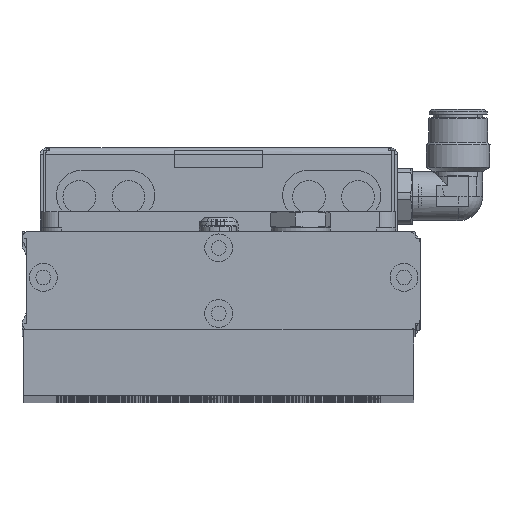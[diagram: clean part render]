
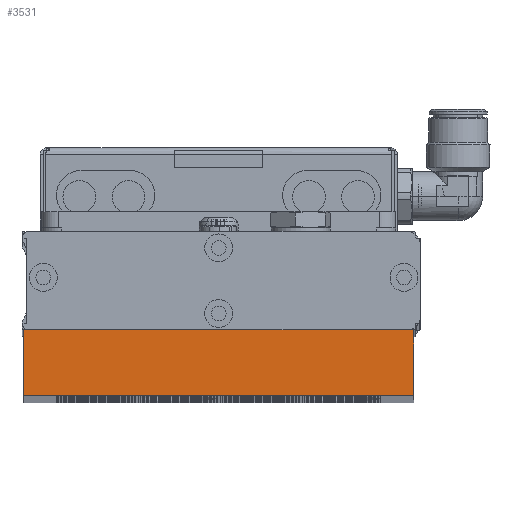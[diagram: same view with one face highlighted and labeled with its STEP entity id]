
A CAD part, top view. The second image highlights one B-rep face of the part: STEP entity #3531.
In plain terms, the highlighted planar face has unit normal (0, 0, 1).
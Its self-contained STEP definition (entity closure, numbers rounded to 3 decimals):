
#1750 = CARTESIAN_POINT ( 'NONE',  ( 36.4, -51.3, 622. ) ) ;
#2282 = PLANE ( 'NONE',  #19411 ) ;
#3531 = ADVANCED_FACE ( 'NONE', ( #35020 ), #2282, .F. ) ;
#3819 = VECTOR ( 'NONE', #12358, 1000. ) ;
#5548 = ORIENTED_EDGE ( 'NONE', *, *, #30440, .F. ) ;
#5615 = CARTESIAN_POINT ( 'NONE',  ( 36.4, -71.3, 622. ) ) ;
#6070 = ORIENTED_EDGE ( 'NONE', *, *, #36262, .F. ) ;
#6252 = VERTEX_POINT ( 'NONE', #32727 ) ;
#9413 = CARTESIAN_POINT ( 'NONE',  ( 36.4, -51.3, 622. ) ) ;
#10414 = CARTESIAN_POINT ( 'NONE',  ( -82.6, -51.3, 622. ) ) ;
#10549 = DIRECTION ( 'NONE',  ( 0., -1., 0. ) ) ;
#11191 = EDGE_CURVE ( 'NONE', #6252, #22015, #22428, .T. ) ;
#12358 = DIRECTION ( 'NONE',  ( 1., 0., 0. ) ) ;
#13959 = VERTEX_POINT ( 'NONE', #1750 ) ;
#18517 = VECTOR ( 'NONE', #35968, 1000. ) ;
#19411 = AXIS2_PLACEMENT_3D ( 'NONE', #29874, #39640, #26203 ) ;
#20044 = VERTEX_POINT ( 'NONE', #5615 ) ;
#20371 = VECTOR ( 'NONE', #10549, 1000. ) ;
#22015 = VERTEX_POINT ( 'NONE', #22960 ) ;
#22428 = LINE ( 'NONE', #10414, #20371 ) ;
#22960 = CARTESIAN_POINT ( 'NONE',  ( -82.6, -71.3, 622. ) ) ;
#23235 = CARTESIAN_POINT ( 'NONE',  ( -82.6, -51.3, 622. ) ) ;
#25027 = CARTESIAN_POINT ( 'NONE',  ( -82.6, -71.3, 622. ) ) ;
#25310 = EDGE_CURVE ( 'NONE', #22015, #20044, #32852, .T. ) ;
#25490 = DIRECTION ( 'NONE',  ( 0., -1., 0. ) ) ;
#26203 = DIRECTION ( 'NONE',  ( 0., 1., 0. ) ) ;
#29874 = CARTESIAN_POINT ( 'NONE',  ( -82.6, -51.3, 622. ) ) ;
#30263 = ORIENTED_EDGE ( 'NONE', *, *, #25310, .T. ) ;
#30440 = EDGE_CURVE ( 'NONE', #6252, #13959, #38866, .T. ) ;
#31694 = ORIENTED_EDGE ( 'NONE', *, *, #11191, .T. ) ;
#32727 = CARTESIAN_POINT ( 'NONE',  ( -82.6, -51.3, 622. ) ) ;
#32852 = LINE ( 'NONE', #25027, #3819 ) ;
#33672 = EDGE_LOOP ( 'NONE', ( #30263, #6070, #5548, #31694 ) ) ;
#35020 = FACE_OUTER_BOUND ( 'NONE', #33672, .T. ) ;
#35968 = DIRECTION ( 'NONE',  ( 1., 0., 0. ) ) ;
#36262 = EDGE_CURVE ( 'NONE', #13959, #20044, #40930, .T. ) ;
#38866 = LINE ( 'NONE', #23235, #18517 ) ;
#39640 = DIRECTION ( 'NONE',  ( 0., 0., -1. ) ) ;
#40375 = VECTOR ( 'NONE', #25490, 1000. ) ;
#40930 = LINE ( 'NONE', #9413, #40375 ) ;
